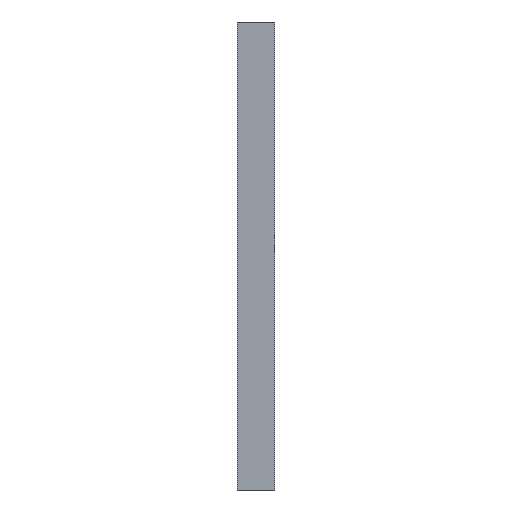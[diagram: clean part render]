
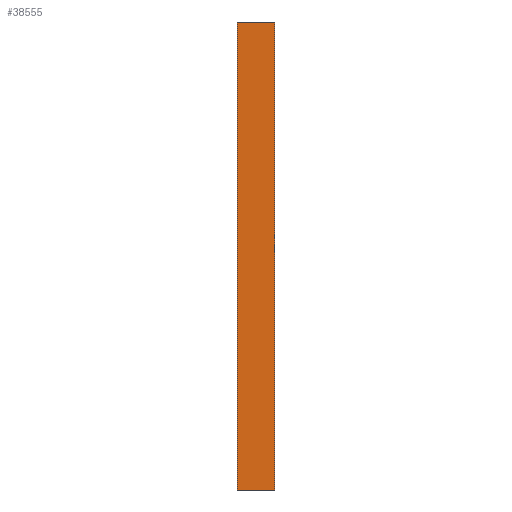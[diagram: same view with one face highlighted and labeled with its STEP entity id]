
A CAD part, left-side view. The second image highlights one B-rep face of the part: STEP entity #38555.
In plain terms, the highlighted planar face has unit normal (-1, 0, 0).
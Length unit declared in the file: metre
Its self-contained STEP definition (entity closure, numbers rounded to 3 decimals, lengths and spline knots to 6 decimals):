
#2528=ORIENTED_EDGE('',*,*,#13708,.F.);
#2529=ORIENTED_EDGE('',*,*,#11243,.F.);
#2530=ORIENTED_EDGE('',*,*,#12441,.T.);
#2531=ORIENTED_EDGE('',*,*,#13707,.T.);
#11243=EDGE_CURVE('',#16837,#16838,#20563,.T.);
#12441=EDGE_CURVE('',#16837,#18033,#21755,.T.);
#13707=EDGE_CURVE('',#18033,#19295,#23017,.T.);
#13708=EDGE_CURVE('',#16838,#19295,#23018,.T.);
#16837=VERTEX_POINT('',#51699);
#16838=VERTEX_POINT('',#51701);
#18033=VERTEX_POINT('',#54095);
#19295=VERTEX_POINT('',#56625);
#20563=LINE('',#51700,#26137);
#21755=LINE('',#54096,#27329);
#23017=LINE('',#56626,#28591);
#23018=LINE('',#56628,#28592);
#26137=VECTOR('',#42342,1.);
#27329=VECTOR('',#43550,1.);
#28591=VECTOR('',#44824,1.);
#28592=VECTOR('',#44827,1.);
#32118=EDGE_LOOP('',(#2528,#2529,#2530,#2531));
#34612=FACE_BOUND('',#32118,.T.);
#36697=PLANE('',#40452);
#38555=ADVANCED_FACE('',(#34612),#36697,.T.);
#40452=AXIS2_PLACEMENT_3D('',#56627,#44825,#44826);
#42342=DIRECTION('',(0.,0.,-1.));
#43550=DIRECTION('',(0.,1.,0.));
#44824=DIRECTION('',(0.,0.,-1.));
#44825=DIRECTION('',(-1.,0.,0.));
#44826=DIRECTION('',(0.,0.,1.));
#44827=DIRECTION('',(0.,1.,0.));
#51699=CARTESIAN_POINT('',(-0.115,-0.01,0.25));
#51700=CARTESIAN_POINT('',(-0.115,-0.01,0.25));
#51701=CARTESIAN_POINT('',(-0.115,-0.01,0.));
#54095=CARTESIAN_POINT('',(-0.115,0.01,0.25));
#54096=CARTESIAN_POINT('',(-0.115,0.,0.25));
#56625=CARTESIAN_POINT('',(-0.115,0.01,0.));
#56626=CARTESIAN_POINT('',(-0.115,0.01,0.25));
#56627=CARTESIAN_POINT('',(-0.115,0.,0.25));
#56628=CARTESIAN_POINT('',(-0.115,0.,0.));
